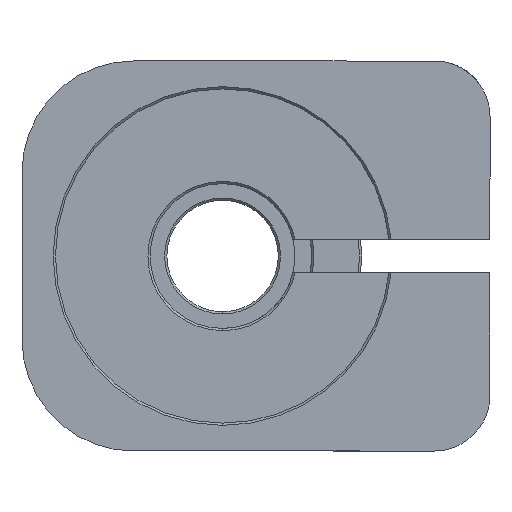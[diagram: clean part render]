
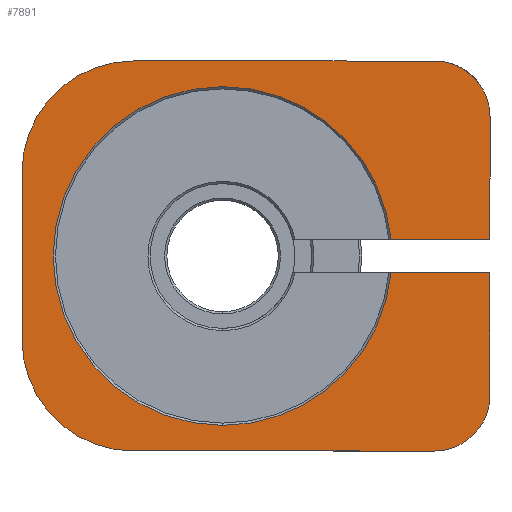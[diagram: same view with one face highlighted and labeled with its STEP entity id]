
A CAD part, front view. The second image highlights one B-rep face of the part: STEP entity #7891.
In plain terms, the highlighted planar face has unit normal (0, -1, 0).
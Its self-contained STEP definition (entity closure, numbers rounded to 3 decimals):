
#2 = AXIS2_PLACEMENT_3D ( 'NONE', #1345, #6316, #2052 ) ;
#16 = LINE ( 'NONE', #6557, #3816 ) ;
#115 = VERTEX_POINT ( 'NONE', #874 ) ;
#177 = VERTEX_POINT ( 'NONE', #1680 ) ;
#198 = AXIS2_PLACEMENT_3D ( 'NONE', #7769, #3565, #8462 ) ;
#288 = DIRECTION ( 'NONE',  ( 0., 0., -1. ) ) ;
#297 = VERTEX_POINT ( 'NONE', #4735 ) ;
#325 = VERTEX_POINT ( 'NONE', #5468 ) ;
#467 = DIRECTION ( 'NONE',  ( 0., 0., -1. ) ) ;
#517 = CARTESIAN_POINT ( 'NONE',  ( -21.311, -13.15, 27.5 ) ) ;
#639 = VERTEX_POINT ( 'NONE', #517 ) ;
#874 = CARTESIAN_POINT ( 'NONE',  ( 20.689, -13.15, 22.5 ) ) ;
#905 = ORIENTED_EDGE ( 'NONE', *, *, #1165, .F. ) ;
#1017 = ORIENTED_EDGE ( 'NONE', *, *, #3824, .F. ) ;
#1038 = EDGE_CURVE ( 'NONE', #639, #4463, #7359, .T. ) ;
#1047 = AXIS2_PLACEMENT_3D ( 'NONE', #7843, #3632, #8534 ) ;
#1165 = EDGE_CURVE ( 'NONE', #2957, #8158, #4409, .T. ) ;
#1289 = DIRECTION ( 'NONE',  ( -1., 0., 0. ) ) ;
#1291 = CARTESIAN_POINT ( 'NONE',  ( -11.311, -13.15, 52.5 ) ) ;
#1293 = DIRECTION ( 'NONE',  ( 0., 1., 0. ) ) ;
#1334 = DIRECTION ( 'NONE',  ( 0., 0., 1. ) ) ;
#1345 = CARTESIAN_POINT ( 'NONE',  ( -3.311, -13.15, 35. ) ) ;
#1437 = LINE ( 'NONE', #8424, #5237 ) ;
#1548 = LINE ( 'NONE', #5526, #5350 ) ;
#1673 = VERTEX_POINT ( 'NONE', #2210 ) ;
#1680 = CARTESIAN_POINT ( 'NONE',  ( -11.311, -13.15, 17.5 ) ) ;
#1767 = ORIENTED_EDGE ( 'NONE', *, *, #2687, .F. ) ;
#1778 = VERTEX_POINT ( 'NONE', #7336 ) ;
#1854 = EDGE_LOOP ( 'NONE', ( #2092, #8436, #1767, #1017, #6193, #7865, #3901, #905, #3496, #3014, #8435, #2577, #6448, #9111 ) ) ;
#1929 = VECTOR ( 'NONE', #1334, 1000. ) ;
#1945 = CARTESIAN_POINT ( 'NONE',  ( -3.311, -13.15, 35. ) ) ;
#1998 = VERTEX_POINT ( 'NONE', #4383 ) ;
#2044 = CIRCLE ( 'NONE', #8223, 5. ) ;
#2052 = DIRECTION ( 'NONE',  ( 0., 0., -1. ) ) ;
#2092 = ORIENTED_EDGE ( 'NONE', *, *, #3125, .F. ) ;
#2156 = CARTESIAN_POINT ( 'NONE',  ( -21.311, -13.15, 42.5 ) ) ;
#2210 = CARTESIAN_POINT ( 'NONE',  ( -3.311, -13.15, 50.2 ) ) ;
#2312 = DIRECTION ( 'NONE',  ( -1., 0., 0. ) ) ;
#2487 = VECTOR ( 'NONE', #1289, 1000. ) ;
#2577 = ORIENTED_EDGE ( 'NONE', *, *, #3407, .T. ) ;
#2662 = DIRECTION ( 'NONE',  ( 0., 0., -1. ) ) ;
#2687 = EDGE_CURVE ( 'NONE', #325, #115, #1437, .T. ) ;
#2726 = CARTESIAN_POINT ( 'NONE',  ( 20.689, -13.15, 17.5 ) ) ;
#2957 = VERTEX_POINT ( 'NONE', #4812 ) ;
#3014 = ORIENTED_EDGE ( 'NONE', *, *, #8922, .T. ) ;
#3125 = EDGE_CURVE ( 'NONE', #3213, #177, #16, .T. ) ;
#3193 = AXIS2_PLACEMENT_3D ( 'NONE', #5576, #1293, #6271 ) ;
#3213 = VERTEX_POINT ( 'NONE', #6614 ) ;
#3407 = EDGE_CURVE ( 'NONE', #6066, #4463, #7550, .T. ) ;
#3447 = CIRCLE ( 'NONE', #2, 15.2 ) ;
#3496 = ORIENTED_EDGE ( 'NONE', *, *, #5612, .F. ) ;
#3565 = DIRECTION ( 'NONE',  ( 0., -1., 0. ) ) ;
#3632 = DIRECTION ( 'NONE',  ( 0., -1., 0. ) ) ;
#3660 = LINE ( 'NONE', #6119, #6959 ) ;
#3816 = VECTOR ( 'NONE', #2312, 1000. ) ;
#3824 = EDGE_CURVE ( 'NONE', #4989, #325, #1548, .T. ) ;
#3901 = ORIENTED_EDGE ( 'NONE', *, *, #6751, .T. ) ;
#4194 = CARTESIAN_POINT ( 'NONE',  ( 15.689, -13.15, 47.5 ) ) ;
#4383 = CARTESIAN_POINT ( 'NONE',  ( 20.689, -13.15, 47.5 ) ) ;
#4409 = LINE ( 'NONE', #9005, #2487 ) ;
#4463 = VERTEX_POINT ( 'NONE', #2156 ) ;
#4595 = DIRECTION ( 'NONE',  ( 0., -1., 0. ) ) ;
#4735 = CARTESIAN_POINT ( 'NONE',  ( -3.311, -13.15, 19.8 ) ) ;
#4776 = DIRECTION ( 'NONE',  ( 0., -1., 0. ) ) ;
#4812 = CARTESIAN_POINT ( 'NONE',  ( 20.689, -13.15, 36.5 ) ) ;
#4921 = DIRECTION ( 'NONE',  ( 0., 0., -1. ) ) ;
#4930 = DIRECTION ( 'NONE',  ( 0., 0., -1. ) ) ;
#4956 = LINE ( 'NONE', #2726, #6577 ) ;
#4989 = VERTEX_POINT ( 'NONE', #8340 ) ;
#5144 = EDGE_CURVE ( 'NONE', #639, #177, #8132, .T. ) ;
#5237 = VECTOR ( 'NONE', #4930, 1000. ) ;
#5350 = VECTOR ( 'NONE', #5499, 1000. ) ;
#5379 = AXIS2_PLACEMENT_3D ( 'NONE', #8943, #4776, #467 ) ;
#5401 = CARTESIAN_POINT ( 'NONE',  ( 11.815, -13.15, 36.5 ) ) ;
#5419 = EDGE_CURVE ( 'NONE', #3213, #115, #2044, .T. ) ;
#5468 = CARTESIAN_POINT ( 'NONE',  ( 20.689, -13.15, 33.5 ) ) ;
#5499 = DIRECTION ( 'NONE',  ( 1., 0., 0. ) ) ;
#5526 = CARTESIAN_POINT ( 'NONE',  ( -3.311, -13.15, 33.5 ) ) ;
#5576 = CARTESIAN_POINT ( 'NONE',  ( -3.311, -13.15, 35. ) ) ;
#5612 = EDGE_CURVE ( 'NONE', #1998, #2957, #4956, .T. ) ;
#5762 = FACE_OUTER_BOUND ( 'NONE', #1854, .T. ) ;
#6066 = VERTEX_POINT ( 'NONE', #1291 ) ;
#6119 = CARTESIAN_POINT ( 'NONE',  ( 20.689, -13.15, 52.5 ) ) ;
#6193 = ORIENTED_EDGE ( 'NONE', *, *, #9170, .T. ) ;
#6271 = DIRECTION ( 'NONE',  ( 0., 0., -1. ) ) ;
#6316 = DIRECTION ( 'NONE',  ( 0., 1., 0. ) ) ;
#6448 = ORIENTED_EDGE ( 'NONE', *, *, #1038, .F. ) ;
#6557 = CARTESIAN_POINT ( 'NONE',  ( 20.689, -13.15, 17.5 ) ) ;
#6577 = VECTOR ( 'NONE', #8368, 1000. ) ;
#6599 = CARTESIAN_POINT ( 'NONE',  ( -21.311, -13.15, 17.5 ) ) ;
#6614 = CARTESIAN_POINT ( 'NONE',  ( 15.689, -13.15, 17.5 ) ) ;
#6751 = EDGE_CURVE ( 'NONE', #1673, #8158, #6971, .T. ) ;
#6766 = AXIS2_PLACEMENT_3D ( 'NONE', #1945, #6895, #2662 ) ;
#6805 = DIRECTION ( 'NONE',  ( 1., 0., 0. ) ) ;
#6895 = DIRECTION ( 'NONE',  ( 0., 1., 0. ) ) ;
#6959 = VECTOR ( 'NONE', #6805, 1000. ) ;
#6971 = CIRCLE ( 'NONE', #6766, 15.2 ) ;
#7060 = EDGE_CURVE ( 'NONE', #6066, #1778, #3660, .T. ) ;
#7182 = CIRCLE ( 'NONE', #3193, 15.2 ) ;
#7336 = CARTESIAN_POINT ( 'NONE',  ( 15.689, -13.15, 52.5 ) ) ;
#7359 = LINE ( 'NONE', #6599, #1929 ) ;
#7550 = CIRCLE ( 'NONE', #5379, 10. ) ;
#7769 = CARTESIAN_POINT ( 'NONE',  ( -11.311, -13.15, 27.5 ) ) ;
#7843 = CARTESIAN_POINT ( 'NONE',  ( -3.311, -13.15, 35. ) ) ;
#7865 = ORIENTED_EDGE ( 'NONE', *, *, #8929, .T. ) ;
#7891 = ADVANCED_FACE ( 'NONE', ( #5762 ), #8503, .T. ) ;
#8132 = CIRCLE ( 'NONE', #198, 10. ) ;
#8158 = VERTEX_POINT ( 'NONE', #5401 ) ;
#8223 = AXIS2_PLACEMENT_3D ( 'NONE', #8762, #4595, #288 ) ;
#8340 = CARTESIAN_POINT ( 'NONE',  ( 11.815, -13.15, 33.5 ) ) ;
#8368 = DIRECTION ( 'NONE',  ( 0., 0., -1. ) ) ;
#8424 = CARTESIAN_POINT ( 'NONE',  ( 20.689, -13.15, 17.5 ) ) ;
#8435 = ORIENTED_EDGE ( 'NONE', *, *, #7060, .F. ) ;
#8436 = ORIENTED_EDGE ( 'NONE', *, *, #5419, .T. ) ;
#8462 = DIRECTION ( 'NONE',  ( 0., 0., -1. ) ) ;
#8503 = PLANE ( 'NONE',  #1047 ) ;
#8534 = DIRECTION ( 'NONE',  ( 0., 0., -1. ) ) ;
#8708 = AXIS2_PLACEMENT_3D ( 'NONE', #4194, #9080, #4921 ) ;
#8762 = CARTESIAN_POINT ( 'NONE',  ( 15.689, -13.15, 22.5 ) ) ;
#8809 = CIRCLE ( 'NONE', #8708, 5. ) ;
#8922 = EDGE_CURVE ( 'NONE', #1998, #1778, #8809, .T. ) ;
#8929 = EDGE_CURVE ( 'NONE', #297, #1673, #3447, .T. ) ;
#8943 = CARTESIAN_POINT ( 'NONE',  ( -11.311, -13.15, 42.5 ) ) ;
#9005 = CARTESIAN_POINT ( 'NONE',  ( -3.311, -13.15, 36.5 ) ) ;
#9080 = DIRECTION ( 'NONE',  ( 0., -1., 0. ) ) ;
#9111 = ORIENTED_EDGE ( 'NONE', *, *, #5144, .T. ) ;
#9170 = EDGE_CURVE ( 'NONE', #4989, #297, #7182, .T. ) ;
